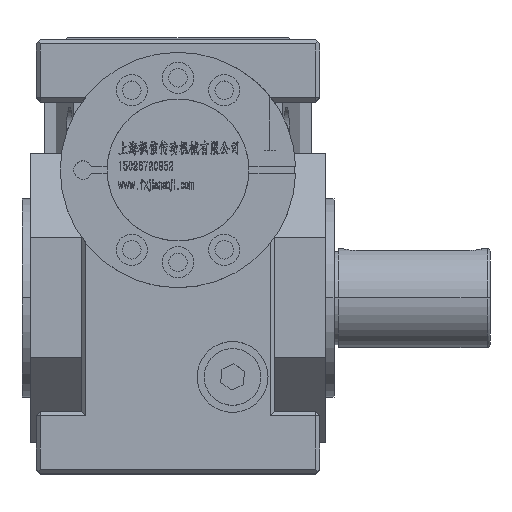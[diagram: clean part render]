
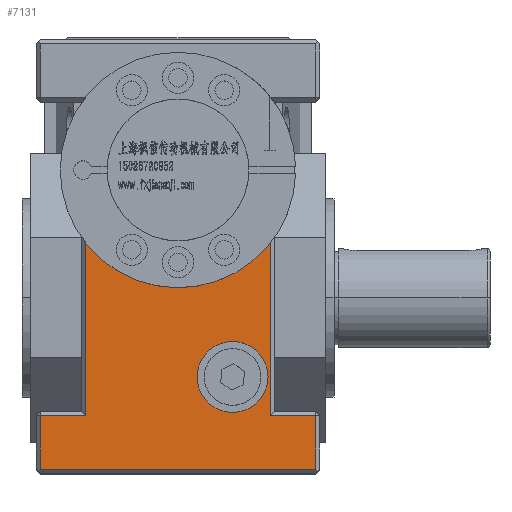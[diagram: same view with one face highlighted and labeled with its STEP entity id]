
A CAD part, top view. The second image highlights one B-rep face of the part: STEP entity #7131.
In plain terms, the highlighted planar face has unit normal (0, 0, 1).
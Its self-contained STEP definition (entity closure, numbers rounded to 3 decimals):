
#492 = EDGE_CURVE ( 'NONE', #81913, #106807, #4042, .T. ) ;
#738 = CIRCLE ( 'NONE', #64092, 41. ) ;
#1244 = ORIENTED_EDGE ( 'NONE', *, *, #44283, .T. ) ;
#1547 = CIRCLE ( 'NONE', #19165, 12.5 ) ;
#2013 = VECTOR ( 'NONE', #104862, 1000. ) ;
#2074 = FACE_BOUND ( 'NONE', #82420, .T. ) ;
#3343 = DIRECTION ( 'NONE',  ( 0., 1., 0. ) ) ;
#3965 = CARTESIAN_POINT ( 'NONE',  ( 19.253, -27.925, 68.5 ) ) ;
#4042 = LINE ( 'NONE', #71283, #2013 ) ;
#6210 = LINE ( 'NONE', #30466, #96320 ) ;
#6240 = VERTEX_POINT ( 'NONE', #11241 ) ;
#6536 = ORIENTED_EDGE ( 'NONE', *, *, #23937, .T. ) ;
#7131 = ADVANCED_FACE ( 'NONE', ( #2074, #76505 ), #17000, .F. ) ;
#8949 = ORIENTED_EDGE ( 'NONE', *, *, #60612, .F. ) ;
#9280 = DIRECTION ( 'NONE',  ( 1., 0., 0. ) ) ;
#9541 = AXIS2_PLACEMENT_3D ( 'NONE', #86373, #84242, #68784 ) ;
#10168 = DIRECTION ( 'NONE',  ( 0., 0., 1. ) ) ;
#11241 = CARTESIAN_POINT ( 'NONE',  ( 32.5, -41.5, 68.5 ) ) ;
#11250 = CARTESIAN_POINT ( 'NONE',  ( 19.253, -27.925, 68.5 ) ) ;
#11811 = CARTESIAN_POINT ( 'NONE',  ( -48.5, -60.5, 68.5 ) ) ;
#11894 = VERTEX_POINT ( 'NONE', #51736 ) ;
#12045 = ORIENTED_EDGE ( 'NONE', *, *, #20723, .T. ) ;
#14321 = EDGE_LOOP ( 'NONE', ( #103263, #12045, #105737, #30226, #6536, #8949, #74077, #1244 ) ) ;
#16366 = EDGE_CURVE ( 'NONE', #11894, #86893, #1547, .T. ) ;
#17000 = PLANE ( 'NONE',  #9541 ) ;
#18920 = AXIS2_PLACEMENT_3D ( 'NONE', #3965, #80007, #38134 ) ;
#19165 = AXIS2_PLACEMENT_3D ( 'NONE', #11250, #10168, #43781 ) ;
#19218 = EDGE_CURVE ( 'NONE', #86893, #11894, #52367, .T. ) ;
#20723 = EDGE_CURVE ( 'NONE', #65233, #81913, #58354, .T. ) ;
#23750 = VERTEX_POINT ( 'NONE', #56891 ) ;
#23937 = EDGE_CURVE ( 'NONE', #6240, #38856, #69491, .T. ) ;
#24141 = CARTESIAN_POINT ( 'NONE',  ( 0., 45., 68.5 ) ) ;
#30226 = ORIENTED_EDGE ( 'NONE', *, *, #100504, .T. ) ;
#30466 = CARTESIAN_POINT ( 'NONE',  ( 50., -41.5, 68.5 ) ) ;
#36080 = VERTEX_POINT ( 'NONE', #102540 ) ;
#36422 = CARTESIAN_POINT ( 'NONE',  ( 32.5, 22.087, 68.5 ) ) ;
#37573 = VECTOR ( 'NONE', #102720, 1000. ) ;
#38134 = DIRECTION ( 'NONE',  ( 1., 0., 0. ) ) ;
#38856 = VERTEX_POINT ( 'NONE', #96782 ) ;
#40385 = DIRECTION ( 'NONE',  ( -1., 0., 0. ) ) ;
#43781 = DIRECTION ( 'NONE',  ( 1., 0., 0. ) ) ;
#43914 = CARTESIAN_POINT ( 'NONE',  ( -32.5, -41.5, 68.5 ) ) ;
#44283 = EDGE_CURVE ( 'NONE', #107062, #36080, #57021, .T. ) ;
#47206 = LINE ( 'NONE', #55996, #105895 ) ;
#51736 = CARTESIAN_POINT ( 'NONE',  ( 6.753, -27.925, 68.5 ) ) ;
#52367 = CIRCLE ( 'NONE', #18920, 12.5 ) ;
#53594 = VECTOR ( 'NONE', #3343, 1000. ) ;
#53814 = EDGE_CURVE ( 'NONE', #23750, #107062, #47206, .T. ) ;
#55412 = VECTOR ( 'NONE', #88427, 1000. ) ;
#55817 = CARTESIAN_POINT ( 'NONE',  ( 31.753, -27.925, 68.5 ) ) ;
#55996 = CARTESIAN_POINT ( 'NONE',  ( -32.5, -40., 68.5 ) ) ;
#56374 = EDGE_CURVE ( 'NONE', #36080, #65233, #84603, .T. ) ;
#56891 = CARTESIAN_POINT ( 'NONE',  ( -32.5, 20.005, 68.5 ) ) ;
#57021 = LINE ( 'NONE', #82379, #55412 ) ;
#58354 = LINE ( 'NONE', #100744, #79051 ) ;
#60612 = EDGE_CURVE ( 'NONE', #23750, #38856, #738, .T. ) ;
#64092 = AXIS2_PLACEMENT_3D ( 'NONE', #24141, #78440, #77895 ) ;
#65233 = VERTEX_POINT ( 'NONE', #11811 ) ;
#68784 = DIRECTION ( 'NONE',  ( -1., 0., 0. ) ) ;
#69491 = LINE ( 'NONE', #36422, #53594 ) ;
#71283 = CARTESIAN_POINT ( 'NONE',  ( 48.5, -40., 68.5 ) ) ;
#73014 = CARTESIAN_POINT ( 'NONE',  ( 48.5, -60.5, 68.5 ) ) ;
#74077 = ORIENTED_EDGE ( 'NONE', *, *, #53814, .T. ) ;
#76505 = FACE_OUTER_BOUND ( 'NONE', #14321, .T. ) ;
#77895 = DIRECTION ( 'NONE',  ( 0., 1., 0. ) ) ;
#78440 = DIRECTION ( 'NONE',  ( 0., 0., 1. ) ) ;
#78745 = ORIENTED_EDGE ( 'NONE', *, *, #16366, .F. ) ;
#79051 = VECTOR ( 'NONE', #9280, 1000. ) ;
#80007 = DIRECTION ( 'NONE',  ( 0., 0., 1. ) ) ;
#80935 = CARTESIAN_POINT ( 'NONE',  ( 48.5, -41.5, 68.5 ) ) ;
#81913 = VERTEX_POINT ( 'NONE', #73014 ) ;
#82379 = CARTESIAN_POINT ( 'NONE',  ( -50., -41.5, 68.5 ) ) ;
#82420 = EDGE_LOOP ( 'NONE', ( #103833, #78745 ) ) ;
#84242 = DIRECTION ( 'NONE',  ( 0., 0., -1. ) ) ;
#84603 = LINE ( 'NONE', #108844, #37573 ) ;
#86373 = CARTESIAN_POINT ( 'NONE',  ( 50., 91., 68.5 ) ) ;
#86893 = VERTEX_POINT ( 'NONE', #55817 ) ;
#88427 = DIRECTION ( 'NONE',  ( -1., 0., 0. ) ) ;
#89597 = DIRECTION ( 'NONE',  ( 0., -1., 0. ) ) ;
#96320 = VECTOR ( 'NONE', #40385, 1000. ) ;
#96782 = CARTESIAN_POINT ( 'NONE',  ( 32.5, 20.005, 68.5 ) ) ;
#100504 = EDGE_CURVE ( 'NONE', #106807, #6240, #6210, .T. ) ;
#100744 = CARTESIAN_POINT ( 'NONE',  ( 50., -60.5, 68.5 ) ) ;
#102540 = CARTESIAN_POINT ( 'NONE',  ( -48.5, -41.5, 68.5 ) ) ;
#102720 = DIRECTION ( 'NONE',  ( 0., -1., 0. ) ) ;
#103263 = ORIENTED_EDGE ( 'NONE', *, *, #56374, .T. ) ;
#103833 = ORIENTED_EDGE ( 'NONE', *, *, #19218, .F. ) ;
#104862 = DIRECTION ( 'NONE',  ( 0., 1., 0. ) ) ;
#105737 = ORIENTED_EDGE ( 'NONE', *, *, #492, .T. ) ;
#105895 = VECTOR ( 'NONE', #89597, 1000. ) ;
#106807 = VERTEX_POINT ( 'NONE', #80935 ) ;
#107062 = VERTEX_POINT ( 'NONE', #43914 ) ;
#108844 = CARTESIAN_POINT ( 'NONE',  ( -48.5, 91., 68.5 ) ) ;
